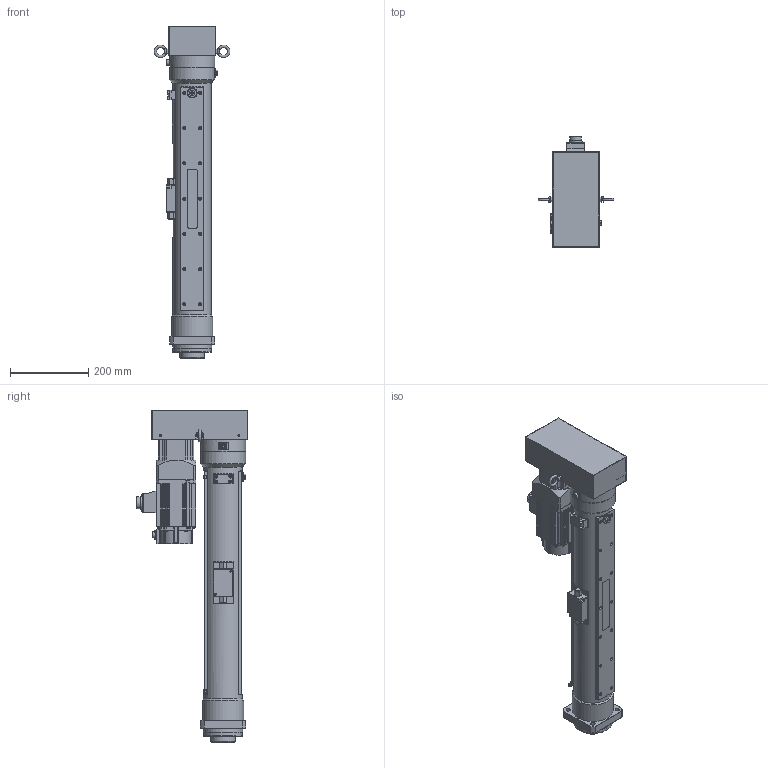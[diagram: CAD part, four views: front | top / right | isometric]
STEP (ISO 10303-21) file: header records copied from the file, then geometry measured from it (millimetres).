
FILE_DESCRIPTION(/* description */ (''),/* implementation_level */ '2;1');
FILE_NAME(/* name */ 'Z:\07.Product\01.Design\3D\1.P-All\OAICS-P\0000.Assembly\OACIS-P010,P015-500-200-A6V200.stp',/* time_stamp */ '2023-03-29T18:02:53+09:00',/* author */ ('magic'),/* organization */ (''),/* preprocessor_version */ 'ST-DEVELOPER v17',/* originating_system */ 'Autodesk Inventor 2019',/* authorisation */ '');
FILE_SCHEMA (('AUTOMOTIVE_DESIGN { 1 0 10303 214 3 1 1 }'));
Products named in the file (1): OACIS-P010-500-200-A6V200_v10.30
Bounding box: 193.9 x 283.44 x 848 mm (x, y, z)
Volume: 7669041.9 mm3; surface area: 1100778.1 mm2
Topology: 2 solids, 2 shells, 2230 faces, 5929 edges, 3923 vertices
Faces by surface type: plane 1014, cylinder 756, cone 238, bspline 108, sphere 60, torus 54
Full cylindrical faces by diameter (mm): 1 x6, 3.242 x44, 4.134 x4, 4.5 x40, 4.917 x19, 5 x2, 5.8 x2, 6.5 x2, 6.6 x10, 6.647 x8, 6.75 x4, 6.8 x1, 7 x12, 7.2 x2, 7.24 x2, 7.8 x2, 8 x52, 8.376 x8, 8.4 x1, 8.7 x1, 9 x12, 9.188 x1, 11 x4, 14 x9, 14.8 x1, 16.376 x1, 18 x1, 22 x1, 25 x1, 25.4 x2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
Entity records: 82557 total; most frequent: CARTESIAN_POINT 23906, DIRECTION 12002, ORIENTED_EDGE 11630, EDGE_CURVE 5815, AXIS2_PLACEMENT_3D 4519, VERTEX_POINT 3923, LINE 2964, VECTOR 2964
